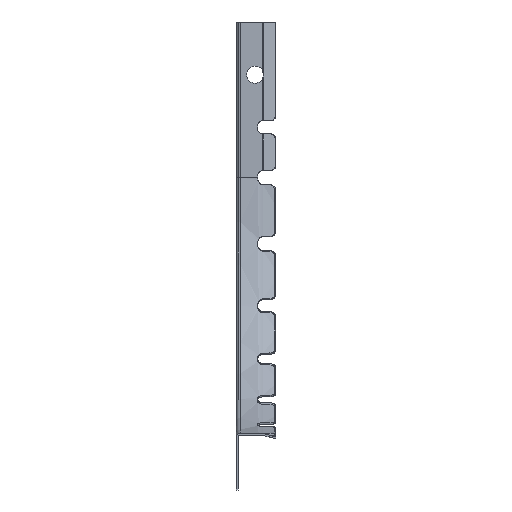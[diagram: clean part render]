
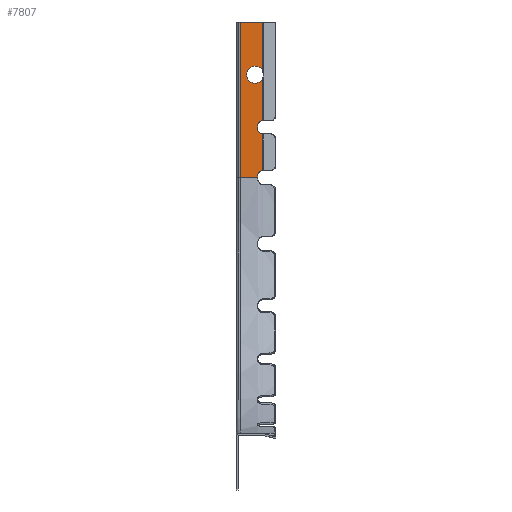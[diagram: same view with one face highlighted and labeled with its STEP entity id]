
A CAD part, left-side view. The second image highlights one B-rep face of the part: STEP entity #7807.
In plain terms, the highlighted planar face has unit normal (-1, 0, 0).
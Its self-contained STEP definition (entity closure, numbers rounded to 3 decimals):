
#68 = LINE ( 'NONE', #8224, #1046 ) ;
#261 = VECTOR ( 'NONE', #14957, 1000. ) ;
#384 = DIRECTION ( 'NONE',  ( 1., 0., 0. ) ) ;
#601 = LINE ( 'NONE', #6201, #10623 ) ;
#1046 = VECTOR ( 'NONE', #11038, 1000. ) ;
#1054 = EDGE_CURVE ( 'NONE', #12051, #13517, #1942, .T. ) ;
#1393 = CIRCLE ( 'NONE', #7194, 2. ) ;
#1494 = VERTEX_POINT ( 'NONE', #4083 ) ;
#1592 = VECTOR ( 'NONE', #7445, 1000. ) ;
#1667 = ORIENTED_EDGE ( 'NONE', *, *, #14707, .T. ) ;
#1812 = EDGE_CURVE ( 'NONE', #7642, #10011, #7104, .T. ) ;
#1942 = LINE ( 'NONE', #3301, #12279 ) ;
#2154 = ORIENTED_EDGE ( 'NONE', *, *, #2316, .F. ) ;
#2163 = ORIENTED_EDGE ( 'NONE', *, *, #1812, .T. ) ;
#2168 = EDGE_CURVE ( 'NONE', #13517, #15896, #2473, .T. ) ;
#2257 = CIRCLE ( 'NONE', #16407, 2. ) ;
#2316 = EDGE_CURVE ( 'NONE', #13899, #1494, #3036, .T. ) ;
#2473 = CIRCLE ( 'NONE', #4197, 2. ) ;
#2679 = EDGE_CURVE ( 'NONE', #15896, #10538, #17096, .T. ) ;
#2776 = CIRCLE ( 'NONE', #16337, 3.25 ) ;
#2885 = DIRECTION ( 'NONE',  ( 1., 0., 0. ) ) ;
#3005 = ORIENTED_EDGE ( 'NONE', *, *, #9668, .T. ) ;
#3036 = LINE ( 'NONE', #11375, #4774 ) ;
#3301 = CARTESIAN_POINT ( 'NONE',  ( -150.7, -9.195, 248.01 ) ) ;
#4083 = CARTESIAN_POINT ( 'NONE',  ( -150.7, -0.8, 307. ) ) ;
#4136 = CARTESIAN_POINT ( 'NONE',  ( -150.7, -9.195, 269.484 ) ) ;
#4141 = CARTESIAN_POINT ( 'NONE',  ( -150.7, -9.195, 307. ) ) ;
#4197 = AXIS2_PLACEMENT_3D ( 'NONE', #13913, #16858, #7026 ) ;
#4462 = DIRECTION ( 'NONE',  ( 0., 0., 1. ) ) ;
#4481 = DIRECTION ( 'NONE',  ( 0., 0., 1. ) ) ;
#4661 = EDGE_CURVE ( 'NONE', #8069, #15647, #5521, .T. ) ;
#4717 = CARTESIAN_POINT ( 'NONE',  ( -150.7, -7.445, 264.5 ) ) ;
#4774 = VECTOR ( 'NONE', #4481, 1000. ) ;
#4940 = CARTESIAN_POINT ( 'NONE',  ( -150.7, -6.445, 283.75 ) ) ;
#5011 = DIRECTION ( 'NONE',  ( 0., 1., 0. ) ) ;
#5186 = CARTESIAN_POINT ( 'NONE',  ( -150.7, -9.195, 250.494 ) ) ;
#5521 = LINE ( 'NONE', #16551, #14073 ) ;
#5564 = ORIENTED_EDGE ( 'NONE', *, *, #2679, .T. ) ;
#5567 = EDGE_CURVE ( 'NONE', #17162, #7642, #2776, .T. ) ;
#5635 = VERTEX_POINT ( 'NONE', #4141 ) ;
#5646 = EDGE_CURVE ( 'NONE', #8069, #13899, #68, .T. ) ;
#5704 = CARTESIAN_POINT ( 'NONE',  ( -150.7, -6.445, 287. ) ) ;
#6201 = CARTESIAN_POINT ( 'NONE',  ( -150.7, -9.195, 248.01 ) ) ;
#6413 = CARTESIAN_POINT ( 'NONE',  ( -150.7, -7.445, 248.51 ) ) ;
#6632 = LINE ( 'NONE', #12165, #261 ) ;
#7026 = DIRECTION ( 'NONE',  ( 0., 1., 0. ) ) ;
#7090 = FACE_OUTER_BOUND ( 'NONE', #13152, .T. ) ;
#7104 = CIRCLE ( 'NONE', #15747, 3.25 ) ;
#7109 = CARTESIAN_POINT ( 'NONE',  ( -150.7, -9.195, 264.516 ) ) ;
#7194 = AXIS2_PLACEMENT_3D ( 'NONE', #12908, #13088, #12742 ) ;
#7445 = DIRECTION ( 'NONE',  ( 0., 0., 1. ) ) ;
#7560 = EDGE_CURVE ( 'NONE', #14224, #5635, #601, .T. ) ;
#7642 = VERTEX_POINT ( 'NONE', #4940 ) ;
#7736 = CARTESIAN_POINT ( 'NONE',  ( -150.7, -9.195, 285.267 ) ) ;
#7780 = ORIENTED_EDGE ( 'NONE', *, *, #1054, .T. ) ;
#7807 = ADVANCED_FACE ( 'NONE', ( #7090 ), #11078, .F. ) ;
#7933 = CARTESIAN_POINT ( 'NONE',  ( -150.7, 0., 307. ) ) ;
#8069 = VERTEX_POINT ( 'NONE', #8799 ) ;
#8141 = DIRECTION ( 'NONE',  ( 0., 0., 1. ) ) ;
#8224 = CARTESIAN_POINT ( 'NONE',  ( -150.7, 0., 248.01 ) ) ;
#8344 = DIRECTION ( 'NONE',  ( 0., 0., 1. ) ) ;
#8799 = CARTESIAN_POINT ( 'NONE',  ( -150.7, -7.445, 248.01 ) ) ;
#8871 = ORIENTED_EDGE ( 'NONE', *, *, #4661, .T. ) ;
#8980 = VERTEX_POINT ( 'NONE', #4136 ) ;
#9265 = ORIENTED_EDGE ( 'NONE', *, *, #12066, .F. ) ;
#9363 = ORIENTED_EDGE ( 'NONE', *, *, #5567, .T. ) ;
#9668 = EDGE_CURVE ( 'NONE', #8980, #17162, #16398, .T. ) ;
#10011 = VERTEX_POINT ( 'NONE', #12200 ) ;
#10402 = CARTESIAN_POINT ( 'NONE',  ( -150.7, -7.445, 266.5 ) ) ;
#10538 = VERTEX_POINT ( 'NONE', #15759 ) ;
#10623 = VECTOR ( 'NONE', #14454, 1000. ) ;
#11038 = DIRECTION ( 'NONE',  ( 0., 1., 0. ) ) ;
#11078 = PLANE ( 'NONE',  #13800 ) ;
#11175 = CARTESIAN_POINT ( 'NONE',  ( -150.7, -6.445, 287. ) ) ;
#11375 = CARTESIAN_POINT ( 'NONE',  ( -150.7, -0.8, 307. ) ) ;
#11815 = ORIENTED_EDGE ( 'NONE', *, *, #17340, .T. ) ;
#12051 = VERTEX_POINT ( 'NONE', #5186 ) ;
#12066 = EDGE_CURVE ( 'NONE', #1494, #5635, #6632, .T. ) ;
#12165 = CARTESIAN_POINT ( 'NONE',  ( -150.7, -9.3, 307. ) ) ;
#12200 = CARTESIAN_POINT ( 'NONE',  ( -150.7, -6.445, 290.25 ) ) ;
#12279 = VECTOR ( 'NONE', #15523, 1000. ) ;
#12472 = ORIENTED_EDGE ( 'NONE', *, *, #7560, .T. ) ;
#12634 = ORIENTED_EDGE ( 'NONE', *, *, #2168, .T. ) ;
#12721 = AXIS2_PLACEMENT_3D ( 'NONE', #11175, #384, #4462 ) ;
#12742 = DIRECTION ( 'NONE',  ( 0., 1., 0. ) ) ;
#12908 = CARTESIAN_POINT ( 'NONE',  ( -150.7, -9.445, 267.5 ) ) ;
#13088 = DIRECTION ( 'NONE',  ( 1., 0., 0. ) ) ;
#13152 = EDGE_LOOP ( 'NONE', ( #9363, #2163, #11815, #12472, #9265, #2154, #17647, #8871, #13716, #7780, #12634, #5564, #1667, #3005 ) ) ;
#13176 = DIRECTION ( 'NONE',  ( 1., 0., 0. ) ) ;
#13517 = VERTEX_POINT ( 'NONE', #7109 ) ;
#13716 = ORIENTED_EDGE ( 'NONE', *, *, #14886, .T. ) ;
#13800 = AXIS2_PLACEMENT_3D ( 'NONE', #7933, #14063, #16573 ) ;
#13899 = VERTEX_POINT ( 'NONE', #16749 ) ;
#13913 = CARTESIAN_POINT ( 'NONE',  ( -150.7, -9.445, 266.5 ) ) ;
#13953 = DIRECTION ( 'NONE',  ( 0., 0., 1. ) ) ;
#14063 = DIRECTION ( 'NONE',  ( 1., 0., 0. ) ) ;
#14073 = VECTOR ( 'NONE', #8344, 1000. ) ;
#14224 = VERTEX_POINT ( 'NONE', #14629 ) ;
#14436 = CIRCLE ( 'NONE', #12721, 3.25 ) ;
#14454 = DIRECTION ( 'NONE',  ( 0., 0., 1. ) ) ;
#14629 = CARTESIAN_POINT ( 'NONE',  ( -150.7, -9.195, 288.733 ) ) ;
#14707 = EDGE_CURVE ( 'NONE', #10538, #8980, #1393, .T. ) ;
#14787 = DIRECTION ( 'NONE',  ( 0., 0., 1. ) ) ;
#14886 = EDGE_CURVE ( 'NONE', #15647, #12051, #2257, .T. ) ;
#14924 = CARTESIAN_POINT ( 'NONE',  ( -150.7, -6.445, 287. ) ) ;
#14957 = DIRECTION ( 'NONE',  ( 0., -1., 0. ) ) ;
#15523 = DIRECTION ( 'NONE',  ( 0., 0., 1. ) ) ;
#15647 = VERTEX_POINT ( 'NONE', #6413 ) ;
#15747 = AXIS2_PLACEMENT_3D ( 'NONE', #5704, #16730, #13953 ) ;
#15759 = CARTESIAN_POINT ( 'NONE',  ( -150.7, -7.445, 267.5 ) ) ;
#15896 = VERTEX_POINT ( 'NONE', #10402 ) ;
#15963 = CARTESIAN_POINT ( 'NONE',  ( -150.7, -9.445, 248.51 ) ) ;
#16112 = VECTOR ( 'NONE', #14787, 1000. ) ;
#16337 = AXIS2_PLACEMENT_3D ( 'NONE', #14924, #2885, #8141 ) ;
#16398 = LINE ( 'NONE', #16487, #16112 ) ;
#16407 = AXIS2_PLACEMENT_3D ( 'NONE', #15963, #13176, #5011 ) ;
#16487 = CARTESIAN_POINT ( 'NONE',  ( -150.7, -9.195, 248.01 ) ) ;
#16551 = CARTESIAN_POINT ( 'NONE',  ( -150.7, -7.445, 245.51 ) ) ;
#16573 = DIRECTION ( 'NONE',  ( 0., -1., 0. ) ) ;
#16730 = DIRECTION ( 'NONE',  ( 1., 0., 0. ) ) ;
#16749 = CARTESIAN_POINT ( 'NONE',  ( -150.7, -0.8, 248.01 ) ) ;
#16858 = DIRECTION ( 'NONE',  ( 1., 0., 0. ) ) ;
#17096 = LINE ( 'NONE', #4717, #1592 ) ;
#17162 = VERTEX_POINT ( 'NONE', #7736 ) ;
#17340 = EDGE_CURVE ( 'NONE', #10011, #14224, #14436, .T. ) ;
#17647 = ORIENTED_EDGE ( 'NONE', *, *, #5646, .F. ) ;
